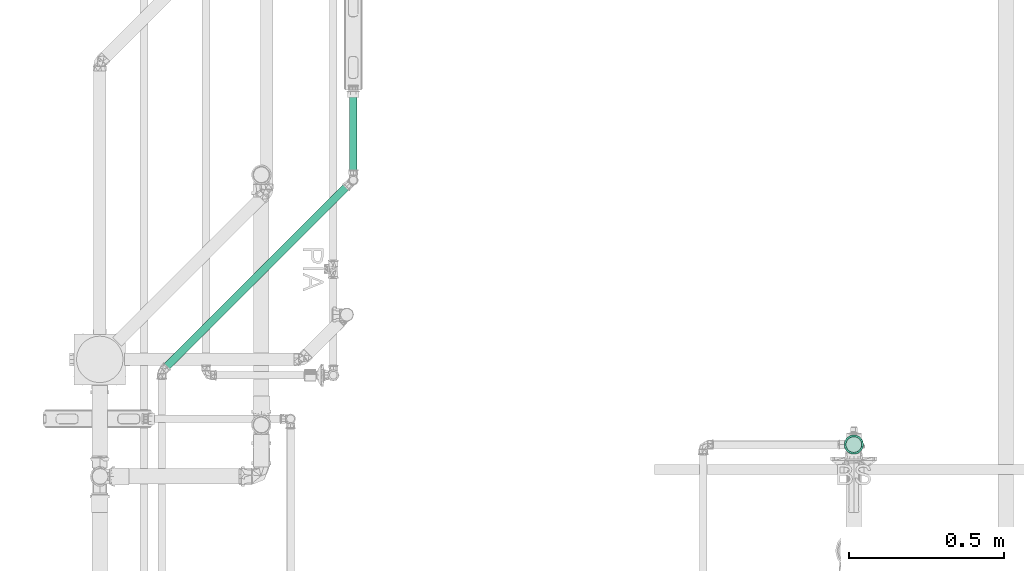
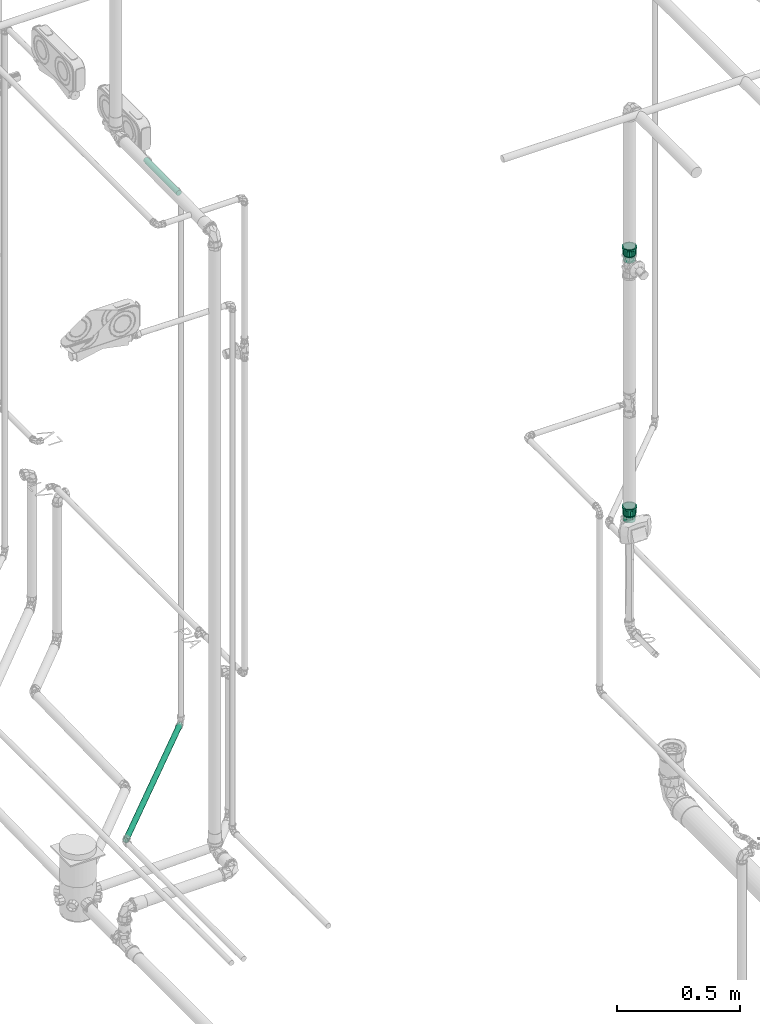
# One storey, part 56 of 589: 2 flow fittings, 2 flow segments.
"""IFC2X3 building model written with IfcOpenShell, lengths in millimetres."""

from ifc_helpers import new_model, entity, si_unit, converted_unit, derived_unit, direction, frame, frame_2d, origin, place, context, subcontext, project, spatial, circle, extrude, faceted_brep, source, transform, mapped, material, type_object, type_shapes, element, save


model = new_model("IFC2X3")

# Units and contexts
model_context = context("Model", 3, precision=0.01, world=origin(), true_north=direction((6.123031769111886e-17, 1.0)))
body_context = subcontext(model_context, "Body", "Model", "MODEL_VIEW")
ifc_project = project(units=[si_unit("LENGTHUNIT", "METRE", prefix="MILLI"), si_unit("AREAUNIT", "SQUARE_METRE"), si_unit("VOLUMEUNIT", "CUBIC_METRE"), converted_unit("PLANEANGLEUNIT", "DEGREE", entity("IfcRatioMeasure", 0.017453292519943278), si_unit("PLANEANGLEUNIT", "RADIAN"), dimensions=[0, 0, 0, 0, 0, 0, 0]), si_unit("MASSUNIT", "GRAM", prefix="KILO"), derived_unit("MASSDENSITYUNIT", [(si_unit("MASSUNIT", "GRAM", prefix="KILO"), 1), (si_unit("LENGTHUNIT", "METRE"), -3)]), derived_unit("IONCONCENTRATIONUNIT", [(si_unit("MASSUNIT", "GRAM", prefix="KILO"), 1), (si_unit("LENGTHUNIT", "METRE"), -3)]), derived_unit("MOMENTOFINERTIAUNIT", [(si_unit("LENGTHUNIT", "METRE"), 4)]), si_unit("TIMEUNIT", "SECOND"), si_unit("FREQUENCYUNIT", "HERTZ"), si_unit("THERMODYNAMICTEMPERATUREUNIT", "DEGREE_CELSIUS"), derived_unit("THERMALTRANSMITTANCEUNIT", [(si_unit("MASSUNIT", "GRAM", prefix="KILO"), 1), (si_unit("THERMODYNAMICTEMPERATUREUNIT", "KELVIN"), -1), (si_unit("TIMEUNIT", "SECOND"), -3)]), derived_unit("THERMALCONDUCTANCEUNIT", [(si_unit("MASSUNIT", "GRAM", prefix="KILO"), 1), (si_unit("THERMODYNAMICTEMPERATUREUNIT", "KELVIN"), -1), (si_unit("TIMEUNIT", "SECOND"), -3), (si_unit("LENGTHUNIT", "METRE"), 1)]), derived_unit("VOLUMETRICFLOWRATEUNIT", [(si_unit("LENGTHUNIT", "METRE"), 3), (si_unit("TIMEUNIT", "SECOND"), -1)]), derived_unit("MASSFLOWRATEUNIT", [(si_unit("MASSUNIT", "GRAM", prefix="KILO"), 1), (si_unit("TIMEUNIT", "SECOND"), -1)]), derived_unit("ROTATIONALFREQUENCYUNIT", [(si_unit("TIMEUNIT", "SECOND"), -1)]), si_unit("ELECTRICCURRENTUNIT", "AMPERE"), si_unit("ELECTRICVOLTAGEUNIT", "VOLT"), si_unit("POWERUNIT", "WATT"), si_unit("FORCEUNIT", "NEWTON", prefix="KILO"), si_unit("ILLUMINANCEUNIT", "LUX"), si_unit("LUMINOUSFLUXUNIT", "LUMEN"), si_unit("LUMINOUSINTENSITYUNIT", "CANDELA"), derived_unit("USERDEFINED", [(si_unit("MASSUNIT", "GRAM", prefix="KILO"), -1), (si_unit("LENGTHUNIT", "METRE"), -2), (si_unit("TIMEUNIT", "SECOND"), 3), (si_unit("LUMINOUSFLUXUNIT", "LUMEN"), 1)]), derived_unit("USERDEFINED", [(si_unit("MASSUNIT", "GRAM", prefix="KILO"), 1), (si_unit("TIMEUNIT", "SECOND"), -3), (si_unit("LENGTHUNIT", "METRE"), 3), (si_unit("ELECTRICCURRENTUNIT", "AMPERE"), -2)]), derived_unit("SOUNDPOWERUNIT", [(si_unit("MASSUNIT", "GRAM", prefix="KILO"), 1), (si_unit("TIMEUNIT", "SECOND"), -3), (si_unit("LENGTHUNIT", "METRE"), 2)]), derived_unit("SOUNDPRESSUREUNIT", [(si_unit("MASSUNIT", "GRAM", prefix="KILO"), 1), (si_unit("LENGTHUNIT", "METRE"), -1), (si_unit("TIMEUNIT", "SECOND"), -2)]), derived_unit("LINEARVELOCITYUNIT", [(si_unit("LENGTHUNIT", "METRE"), 1), (si_unit("TIMEUNIT", "SECOND"), -1)]), si_unit("PRESSUREUNIT", "PASCAL"), derived_unit("USERDEFINED", [(si_unit("MASSUNIT", "GRAM", prefix="KILO"), 1), (si_unit("LENGTHUNIT", "METRE"), -2), (si_unit("TIMEUNIT", "SECOND"), -2)]), derived_unit("LINEARFORCEUNIT", [(si_unit("MASSUNIT", "GRAM", prefix="KILO"), 1), (si_unit("TIMEUNIT", "SECOND"), -2)]), derived_unit("PLANARFORCEUNIT", [(si_unit("MASSUNIT", "GRAM", prefix="KILO"), 1), (si_unit("LENGTHUNIT", "METRE"), -1), (si_unit("TIMEUNIT", "SECOND"), -2)]), derived_unit("SPECIFICHEATCAPACITYUNIT", [(si_unit("THERMODYNAMICTEMPERATUREUNIT", "KELVIN"), -1), (si_unit("LENGTHUNIT", "METRE"), 2), (si_unit("TIMEUNIT", "SECOND"), -2)]), derived_unit("HEATINGVALUEUNIT", [(si_unit("LENGTHUNIT", "METRE"), 2), (si_unit("TIMEUNIT", "SECOND"), -2)]), derived_unit("VAPORPERMEABILITYUNIT", [(si_unit("LENGTHUNIT", "METRE"), -1), (si_unit("TIMEUNIT", "SECOND"), 1)]), derived_unit("DYNAMICVISCOSITYUNIT", [(si_unit("MASSUNIT", "GRAM", prefix="KILO"), 1), (si_unit("TIMEUNIT", "SECOND"), -1), (si_unit("LENGTHUNIT", "METRE"), -1)]), derived_unit("THERMALEXPANSIONCOEFFICIENTUNIT", [(si_unit("THERMODYNAMICTEMPERATUREUNIT", "KELVIN"), -1)]), derived_unit("MODULUSOFELASTICITYUNIT", [(si_unit("MASSUNIT", "GRAM", prefix="KILO"), 1), (si_unit("LENGTHUNIT", "METRE"), -1), (si_unit("TIMEUNIT", "SECOND"), -2)]), derived_unit("ISOTHERMALMOISTURECAPACITYUNIT", [(si_unit("LENGTHUNIT", "METRE"), 3), (si_unit("MASSUNIT", "GRAM", prefix="KILO"), -1)]), derived_unit("MOISTUREDIFFUSIVITYUNIT", [(si_unit("TIMEUNIT", "SECOND"), -1), (si_unit("LENGTHUNIT", "METRE"), 2)])], contexts=[model_context])

# Site, building, storey
site_placement = place(None, origin())
site = spatial("IfcSite", under=ifc_project, at=site_placement, Name="Default", CompositionType="ELEMENT")
building_placement = place(site_placement, origin())
building = spatial("IfcBuilding", under=site, at=building_placement, CompositionType="ELEMENT")
storey_placement = place(building_placement, frame((0.0, 0.0, 100.0)))
storey = spatial("IfcBuildingStorey", under=building, at=storey_placement, Name="TÉRREO", CompositionType="ELEMENT", Elevation=100.0)

# Flow segments
pipe_segment_type = type_object("IfcPipeSegmentType", Name="Tipos de tubos:PVC Marrom Soldável", PredefinedType="NOTDEFINED")
flow_segment_1_placement = place(storey_placement, origin())
element("IfcFlowSegment", 1, at=flow_segment_1_placement, inside=storey, type_object=pipe_segment_type, Name="Tipos de tubos:PVC Marrom Soldável", ObjectType="Tipos de tubos:PVC Marrom Soldável", context=body_context, shape_type="SweptSolid", body=[
    extrude(circle(Radius=12.5, at=frame_2d((7.65689665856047e-13, 7.428414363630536e-08), x_axis=(1.0, 0.0))), frame((-205.78807947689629, -7731.279694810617, -37.35698019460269), z_axis=(0.707106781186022, 0.707106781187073, 0.0), x_axis=(-0.707106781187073, 0.707106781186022, 0.0)), (0.0, 0.0, 1.0), 848.1311712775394),
])
flow_segment_2_placement = place(storey_placement, origin())
element("IfcFlowSegment", 2, at=flow_segment_2_placement, inside=storey, type_object=pipe_segment_type, Name="Tipos de tubos:PVC Marrom Soldável", ObjectType="Tipos de tubos:PVC Marrom Soldável", context=body_context, shape_type="SweptSolid", body=[
    extrude(circle(Radius=12.5, at=frame_2d((6.767919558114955e-14, 0.0), x_axis=(1.0, 0.0))), frame((405.66918499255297, -7103.373910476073, 2576.538742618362), z_axis=(0.0, 0.9999500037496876, 0.009999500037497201), x_axis=(-1.0, 0.0, 0.0)), (0.0, 0.0, 1.0), 266.0970462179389),
])

# Flow fittings
ifc_material = material(Name="PVC Marrom")
pipe_fitting_type = type_object("IfcPipeFittingType", Name="PVC Marrom Soldável_Adaptador Curto com Bolsa e Rosca Aninhado_Rodrigo MEP:Adaptador", PredefinedType="NOTDEFINED", material=ifc_material)
shared_shape = source(origin(), body_context, "Body", "Brep", [
    faceted_brep([(0.0, -15.475000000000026, -26.803486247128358), (0.0, -21.884954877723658, -21.88495487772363), (0.0, -12.499999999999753, -21.65063509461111), (0.0, -6.470476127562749, -24.14814565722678), (0.0, -8.010449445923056, -29.895404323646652), (0.0, -17.677669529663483, -17.6776695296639), (0.0, -26.803486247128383, -15.474999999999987), (0.0, -21.650635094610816, -12.500000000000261), (0.0, -24.148145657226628, -6.470476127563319), (0.0, -29.895404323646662, -8.01044944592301), (0.0, -25.0, 0.0), (0.0, -30.95, 0.0), (0.0, -24.14814565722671, 6.470476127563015), (0.0, -29.895404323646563, 8.010449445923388), (0.0, -21.65063509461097, 12.499999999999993), (0.0, -26.80348624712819, 15.475000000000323), (0.0, -17.6776695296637, 17.677669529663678), (0.0, -21.884954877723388, 21.884954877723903), (0.0, -12.500000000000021, 21.65063509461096), (0.0, -15.474999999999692, 26.803486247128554), (0.0, -6.4704761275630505, 24.1481456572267), (0.0, -8.010449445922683, 29.89540432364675), (0.0, 0.0, 25.0), (0.0, 0.0, 30.95), (0.0, 6.4704761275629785, 24.14814565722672), (0.0, 8.010449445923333, 29.895404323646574), (0.0, 12.49999999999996, 21.650635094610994), (0.0, 15.475000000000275, 26.803486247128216), (0.0, 17.677669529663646, 17.67766952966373), (0.0, 21.884954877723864, 21.884954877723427), (0.0, 21.65063509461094, 12.500000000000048), (0.0, 26.803486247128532, 15.474999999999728), (0.0, 29.89540432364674, 8.010449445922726), (0.0, 24.14814565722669, 6.4704761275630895), (0.0, 30.95, 0.0), (0.0, 25.0, 0.0), (0.0, 29.895404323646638, -8.010449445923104), (0.0, 24.148145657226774, -6.470476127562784), (0.0, 26.803486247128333, -15.475000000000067), (0.0, 21.6506350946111, -12.499999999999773), (0.0, 21.884954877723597, -21.884954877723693), (0.0, 17.677669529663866, -17.67766952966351), (0.0, 15.474999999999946, -26.803486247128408), (0.0, 12.500000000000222, -21.650635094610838), (0.0, 8.010449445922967, -29.895404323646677), (0.0, 6.470476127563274, -24.148145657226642), (0.0, 0.0, -30.95), (0.0, 0.0, -25.0), (7.0, 29.083191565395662, 10.586334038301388), (7.0, 29.880651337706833, 6.064083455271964), (7.0, 30.016595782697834, 5.29316701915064), (7.0, 19.590362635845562, 23.350189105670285), (7.0, 23.70796650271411, 19.895598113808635), (7.0, 26.395579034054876, 15.24096607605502), (7.0, 10.421885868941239, 28.6425895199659), (7.0, 5.3710129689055, 30.480398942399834), (7.0, 30.95, 0.0), (7.0, 15.472758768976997, 26.804780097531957), (7.0, -15.479482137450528, 26.80089798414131), (7.0, -10.42907040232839, 28.639974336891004), (7.0, -5.37865866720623, 30.479050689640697), (7.0, -23.712956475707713, 19.889650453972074), (7.0, -19.596219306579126, 23.345274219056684), (7.0, -30.95, 0.0), (7.0, -29.08584618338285, 10.57903832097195), (7.0, -26.39940132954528, 15.234344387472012), (7.0, -0.0038228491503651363, 30.47972481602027), (7.0, -29.08584618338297, -10.579038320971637), (7.0, -19.596219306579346, -23.3452742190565), (7.0, -23.71295647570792, -19.88965045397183), (7.0, -26.39940132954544, -15.234344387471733), (7.0, -10.429070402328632, -28.639974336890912), (7.0, -5.378658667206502, -30.47905068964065), (7.0, -15.47948213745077, -26.800897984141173), (7.0, 30.0165957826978, -5.2931670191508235), (7.0, 15.472758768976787, -26.804780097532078), (7.0, 10.421885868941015, -28.642589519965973), (7.0, 5.3710129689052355, -30.480398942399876), (7.0, 23.707966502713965, -19.895598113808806), (7.0, 19.590362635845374, -23.350189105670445), (7.0, 29.88065131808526, -6.064083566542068), (7.0, 29.083191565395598, -10.58633403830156), (7.0, 26.395579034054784, -15.240966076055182), (7.0, -0.003822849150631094, -30.479724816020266), (34.4499999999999, 26.875116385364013, 9.782030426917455), (9.400000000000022, 27.737468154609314, 4.8912625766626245), (9.400000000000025, 26.87493630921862, 9.782525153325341), (9.400000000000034, 14.297928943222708, 24.769522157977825), (34.4499999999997, 14.299296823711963, 24.768732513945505), (9.40000000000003, 18.102887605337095, 21.577234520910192), (34.4499999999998, 21.908523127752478, 18.384140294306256), (34.44999999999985, 24.391819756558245, 14.083085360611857), (9.400000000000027, 24.391391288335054, 14.083736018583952), (9.400000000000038, 9.63056335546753, 26.467788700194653), (9.400000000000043, 4.963197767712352, 28.16605524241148), (34.44999999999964, 4.965271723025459, 28.165689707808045), (9.400000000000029, 21.907846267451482, 18.384946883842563), (34.44999999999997, 27.796398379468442, 4.557325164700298), (9.40000000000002, 28.600000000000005, 0.0), (34.44999999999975, 18.103909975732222, 21.57643640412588), (34.44999999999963, -0.0011994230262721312, 28.165478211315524), (9.400000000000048, -0.0035325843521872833, 28.165432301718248), (34.44999999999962, -4.967670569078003, 28.165266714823), (34.44999999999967, 9.632284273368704, 26.46721111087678), (9.400000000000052, -4.970262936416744, 28.164809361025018), (9.40000000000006, -14.304141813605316, 24.765934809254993), (34.449999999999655, -14.301406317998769, 24.76751455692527), (9.400000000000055, -9.63720237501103, 26.465372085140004), (34.449999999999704, -18.105747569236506, 21.574894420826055), (34.44999999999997, 27.73755819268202, 4.891015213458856), (9.400000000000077, -26.87738936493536, 9.77578339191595), (34.450000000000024, -28.600000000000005, 0.0), (34.449999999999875, -26.875949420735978, 9.779741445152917), (9.400000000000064, -18.108299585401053, 21.57269281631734), (9.40000000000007, -21.91245735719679, 18.379450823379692), (34.449999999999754, -21.910088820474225, 18.38227428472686), (34.44999999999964, -9.634538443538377, 26.466390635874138), (9.400000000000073, -24.394923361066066, 14.077617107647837), (34.450000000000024, 28.600000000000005, 0.0), (9.40000000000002, -28.600000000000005, 0.0), (34.44999999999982, -24.3930191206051, 14.081007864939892), (34.45000000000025, -26.87594942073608, -9.77974144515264), (9.40000000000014, -26.87738936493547, -9.77578339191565), (34.45000000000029, 18.103909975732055, -21.576436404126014), (34.45000000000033, 14.299296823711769, -24.76873251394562), (9.400000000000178, 18.10288760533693, -21.577234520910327), (34.450000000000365, -21.910088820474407, -18.38227428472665), (9.400000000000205, -21.912457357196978, -18.37945082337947), (9.400000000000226, -18.108299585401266, -21.57269281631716), (34.45000000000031, -24.393019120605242, -14.081007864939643), (9.400000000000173, -24.394923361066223, -14.077617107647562), (9.40000000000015, 21.907846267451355, -18.384946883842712), (9.40000000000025, -0.0035325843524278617, -28.165432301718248), (9.400000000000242, 4.963197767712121, -28.166055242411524), (34.45000000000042, -0.0011994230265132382, -28.165478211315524), (34.45000000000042, -14.301406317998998, -24.76751455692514), (9.400000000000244, -14.304141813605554, -24.765934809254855), (9.40000000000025, -9.637202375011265, -26.46537208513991), (34.45000000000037, 9.632284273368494, -26.467211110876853), (34.45000000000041, 4.965271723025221, -28.165689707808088), (9.400000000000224, 9.63056335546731, -26.467788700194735), (9.400000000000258, -4.970262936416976, -28.164809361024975), (34.45000000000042, -9.634538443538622, -26.46639063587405), (34.45000000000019, 24.391819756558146, -14.083085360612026), (9.40000000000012, 24.391391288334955, -14.083736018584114), (9.400000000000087, 26.874936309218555, -9.782525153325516), (34.450000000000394, -18.1057475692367, -21.574894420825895), (34.450000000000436, -4.967670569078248, -28.16526671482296), (34.45000000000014, 26.875116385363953, -9.782030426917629), (34.450000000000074, 27.796398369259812, -4.557325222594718), (9.400000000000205, 14.297928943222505, -24.769522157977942), (9.400000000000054, 27.737468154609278, -4.8912625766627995), (34.450000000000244, 21.908523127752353, -18.38414029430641), (34.45000000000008, 27.737558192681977, -4.891015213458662), (69.0, 0.0, -25.0), (69.0, 6.4704761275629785, -24.14814565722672), (69.0, 12.49999999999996, -21.650635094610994), (69.0, 17.677669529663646, -17.67766952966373), (69.0, 21.650635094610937, -12.500000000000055), (69.0, 24.14814565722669, -6.4704761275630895), (69.0, 25.0, 0.0), (69.0, 24.148145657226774, 6.470476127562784), (69.0, 21.650635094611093, 12.499999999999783), (69.0, 17.67766952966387, 17.677669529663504), (69.0, 12.500000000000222, 21.650635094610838), (69.0, 6.470476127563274, 24.148145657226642), (69.0, 0.0, 25.0), (69.0, -6.470476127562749, 24.14814565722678), (69.0, -12.499999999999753, 21.65063509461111), (69.0, -17.677669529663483, 17.6776695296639), (69.0, -21.650635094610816, 12.500000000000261), (69.0, -24.148145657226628, 6.470476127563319), (69.0, -25.0, 0.0), (69.0, -24.14814565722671, -6.470476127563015), (69.0, -21.650635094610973, -12.499999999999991), (69.0, -17.6776695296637, -17.677669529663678), (69.0, -12.500000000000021, -21.65063509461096), (69.0, -6.4704761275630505, -24.1481456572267), (40.499999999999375, 8.41832461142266, 23.136178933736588), (40.49999999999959, 19.1502152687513, 16.070757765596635), (40.49999999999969, 21.321146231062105, 12.310958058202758), (40.49999999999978, 23.492077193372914, 8.551158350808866), (40.49999999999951, 15.824202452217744, 18.861218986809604), (40.49999999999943, 12.498189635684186, 21.651680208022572), (40.49999999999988, 24.246038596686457, 4.275579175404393), (40.49999999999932, 4.3384595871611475, 24.620677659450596), (40.499999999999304, -0.003087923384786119, 24.620133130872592), (40.499999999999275, -4.344635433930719, 24.61958860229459), (40.49999999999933, -12.503620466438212, 21.648544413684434), (40.49999999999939, -15.828933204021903, 18.85724896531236), (40.49999999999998, 25.0, 0.0), (40.49999999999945, -19.154245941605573, 16.065953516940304), (40.49999999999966, -23.494221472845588, 8.545265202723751), (40.499999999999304, -8.424127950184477, 23.13406650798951), (40.49999999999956, -21.324233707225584, 12.305609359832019), (40.49999999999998, -25.0, 0.0), (40.500000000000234, -19.15424594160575, -16.065953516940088), (40.50000000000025, 12.498189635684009, -21.65168020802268), (40.500000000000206, 15.824202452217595, -18.861218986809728), (40.500000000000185, -21.32423370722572, -12.305609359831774), (40.50000000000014, -23.494221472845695, -8.545265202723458), (40.50000000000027, -15.82893320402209, -18.8572489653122), (40.5000000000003, -12.503620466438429, -21.64854441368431), (40.50000000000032, -8.42412795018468, -23.13406650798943), (40.50000000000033, -4.344635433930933, -24.619588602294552), (40.50000000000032, -0.00308792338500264, -24.620133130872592), (40.5000000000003, 4.3384595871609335, -24.62067765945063), (40.50000000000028, 8.41832461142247, -23.136178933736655), (40.50000000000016, 19.150215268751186, -16.070757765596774), (40.50000000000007, 23.49207719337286, -8.551158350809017), (40.500000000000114, 21.321146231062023, -12.31095805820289), (40.50000000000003, 24.246038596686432, -4.275579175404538), (9.40000000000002, 24.14814565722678, -6.470476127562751), (34.450000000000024, 24.14814565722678, -6.470476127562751), (34.450000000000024, 25.0, 0.0), (9.40000000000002, 25.0, 0.0), (7.0, 25.0, 0.0), (7.0, 24.14814565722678, -6.470476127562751), (9.40000000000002, 21.650635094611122, -12.499999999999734), (34.450000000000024, 21.650635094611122, -12.499999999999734), (7.0, 21.650635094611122, -12.499999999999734), (34.450000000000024, 12.500000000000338, -21.65063509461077), (34.450000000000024, 17.677669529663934, -17.677669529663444), (9.40000000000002, 17.677669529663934, -17.677669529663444), (7.0, 17.677669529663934, -17.677669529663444), (7.0, 12.500000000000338, -21.65063509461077), (9.40000000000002, 12.500000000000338, -21.65063509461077), (34.450000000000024, 6.470476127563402, -24.148145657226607), (7.0, 6.470476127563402, -24.148145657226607), (9.40000000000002, 6.470476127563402, -24.148145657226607), (34.450000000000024, 0.0, -25.0), (7.0, 0.0, -25.0), (9.40000000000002, 0.0, -25.0), (9.40000000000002, -6.470476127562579, -24.148145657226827), (34.450000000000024, -6.470476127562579, -24.148145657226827), (7.0, -6.470476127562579, -24.148145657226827), (9.40000000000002, -12.49999999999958, -21.65063509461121), (34.450000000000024, -12.49999999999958, -21.65063509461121), (7.0, -12.49999999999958, -21.65063509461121), (9.40000000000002, -24.148145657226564, -6.470476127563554), (7.0, -24.14814565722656, -6.470476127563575), (7.0, -25.0, 0.0), (9.40000000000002, -25.0, 0.0), (34.450000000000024, -25.0, 0.0), (34.450000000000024, -24.148145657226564, -6.470476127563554), (9.40000000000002, -17.677669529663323, -17.677669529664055), (34.450000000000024, -17.677669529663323, -17.677669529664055), (7.0, -17.677669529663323, -17.677669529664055), (9.40000000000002, -21.650635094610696, -12.500000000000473), (34.450000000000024, -21.650635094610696, -12.500000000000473), (7.0, -21.650635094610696, -12.500000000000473), (9.40000000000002, -24.148145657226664, 6.470476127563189), (34.450000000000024, -24.148145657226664, 6.470476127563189), (7.0, -24.148145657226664, 6.470476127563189), (9.40000000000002, -21.65063509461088, 12.50000000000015), (34.450000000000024, -21.65063509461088, 12.50000000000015), (7.0, -21.65063509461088, 12.50000000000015), (34.450000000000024, -12.49999999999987, 21.650635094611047), (34.450000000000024, -17.677669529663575, 17.677669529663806), (9.40000000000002, -17.677669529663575, 17.677669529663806), (7.0, -17.677669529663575, 17.677669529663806), (7.0, -12.49999999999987, 21.650635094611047), (9.40000000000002, -12.49999999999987, 21.650635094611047), (34.450000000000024, -6.470476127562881, 24.14814565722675), (7.0, -6.470476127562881, 24.14814565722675), (9.40000000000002, -6.470476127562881, 24.14814565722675), (34.450000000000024, 0.0, 25.0), (7.0, 0.0, 25.0), (9.40000000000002, 0.0, 25.0), (34.450000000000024, 12.50000000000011, 21.650635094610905), (9.40000000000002, 12.50000000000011, 21.650635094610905), (7.0, 12.50000000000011, 21.650635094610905), (7.0, 17.677669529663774, 17.677669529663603), (9.40000000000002, 17.677669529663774, 17.677669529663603), (34.450000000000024, 17.677669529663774, 17.677669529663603), (34.450000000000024, 21.650635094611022, 12.499999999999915), (9.40000000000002, 21.650635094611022, 12.499999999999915), (7.0, 21.650635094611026, 12.499999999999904), (7.0, 24.14814565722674, 6.470476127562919), (9.40000000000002, 24.14814565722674, 6.470476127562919), (34.450000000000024, 24.14814565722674, 6.470476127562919), (34.450000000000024, 6.470476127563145, 24.148145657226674), (9.40000000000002, 6.470476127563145, 24.148145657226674), (7.0, 6.470476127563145, 24.148145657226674)], [[[0, 1, 2]], [[0, 2, 3]], [[3, 4, 0]], [[2, 1, 5]], [[6, 5, 1]], [[7, 5, 6]], [[8, 7, 6]], [[8, 6, 9]], [[8, 9, 10]], [[10, 9, 11]], [[12, 10, 11]], [[12, 11, 13]], [[14, 12, 13]], [[14, 13, 15]], [[16, 14, 15]], [[15, 17, 16]], [[17, 18, 16]], [[18, 17, 19]], [[18, 19, 20]], [[21, 20, 19]], [[20, 21, 22]], [[22, 21, 23]], [[23, 24, 22]], [[24, 23, 25]], [[24, 25, 26]], [[27, 26, 25]], [[27, 28, 26]], [[27, 29, 28]], [[30, 28, 29]], [[31, 30, 29]], [[32, 30, 31]], [[33, 30, 32]], [[33, 32, 34]], [[34, 35, 33]], [[36, 35, 34]], [[36, 37, 35]], [[37, 36, 38]], [[39, 37, 38]], [[39, 38, 40]], [[39, 40, 41]], [[40, 42, 41]], [[41, 42, 43]], [[43, 42, 44]], [[44, 45, 43]], [[46, 45, 44]], [[4, 47, 46]], [[46, 47, 45]], [[4, 3, 47]], [[32, 48, 49, 50]], [[51, 52, 29]], [[53, 48, 31, 52]], [[54, 25, 55]], [[48, 32, 31]], [[34, 50, 56]], [[27, 57, 51]], [[29, 27, 51]], [[29, 52, 31]], [[19, 58, 59]], [[21, 19, 59]], [[54, 57, 27]], [[25, 54, 27]], [[55, 25, 23]], [[32, 50, 34]], [[59, 60, 21]], [[61, 62, 17]], [[63, 64, 13]], [[65, 61, 15, 64]], [[11, 63, 13]], [[17, 62, 19]], [[66, 55, 23, 60]], [[21, 60, 23]], [[61, 17, 15]], [[19, 62, 58]], [[13, 64, 15]], [[67, 63, 9]], [[68, 69, 1]], [[70, 67, 6, 69]], [[71, 4, 72]], [[67, 9, 6]], [[63, 11, 9]], [[4, 71, 0]], [[0, 73, 68]], [[1, 69, 6]], [[36, 34, 74]], [[42, 75, 76]], [[71, 73, 0]], [[44, 42, 76]], [[72, 4, 46]], [[1, 0, 68]], [[76, 77, 44]], [[78, 79, 40]], [[36, 74, 80, 81]], [[82, 78, 38, 81]], [[36, 81, 38]], [[40, 79, 42]], [[83, 72, 46, 77]], [[44, 77, 46]], [[78, 40, 38]], [[42, 79, 75]], [[34, 56, 74]], [[84, 85, 86]], [[87, 88, 89]], [[90, 91, 92]], [[93, 94, 95]], [[92, 96, 90]], [[97, 98, 85]], [[96, 89, 99]], [[84, 86, 91]], [[100, 101, 102]], [[103, 93, 95]], [[93, 103, 87]], [[92, 91, 86]], [[101, 104, 102]], [[99, 89, 88]], [[105, 106, 107]], [[106, 105, 108]], [[85, 84, 109, 97]], [[95, 94, 100]], [[110, 111, 112]], [[113, 114, 115]], [[102, 104, 116]], [[112, 117, 110]], [[108, 113, 115]], [[107, 116, 104]], [[97, 118, 98]], [[108, 105, 113]], [[111, 110, 119]], [[90, 96, 99]], [[120, 114, 117]], [[120, 117, 112]], [[88, 87, 103]], [[94, 101, 100]], [[115, 114, 120]], [[116, 107, 106]], [[121, 111, 122]], [[123, 124, 125]], [[126, 127, 128]], [[129, 121, 130]], [[125, 131, 123]], [[121, 122, 130]], [[132, 133, 134]], [[135, 136, 137]], [[138, 139, 140]], [[122, 111, 119]], [[130, 127, 129]], [[137, 141, 142]], [[143, 144, 145]], [[146, 126, 128]], [[134, 147, 132]], [[142, 135, 137]], [[133, 139, 134]], [[139, 133, 140]], [[146, 136, 135]], [[148, 143, 145]], [[142, 141, 147]], [[98, 118, 149]], [[124, 150, 125]], [[138, 150, 124]], [[145, 151, 148]], [[128, 136, 146]], [[131, 144, 152]], [[151, 149, 153, 148]], [[143, 152, 144]], [[123, 131, 152]], [[132, 147, 141]], [[151, 98, 149]], [[129, 127, 126]], [[140, 150, 138]], [[154, 155, 156, 157, 158, 159, 160, 161, 162, 163, 164, 165, 166, 167, 168, 169, 170, 171, 172, 173, 174, 175, 176, 177]], [[165, 164, 178]], [[179, 163, 162]], [[180, 179, 162, 181]], [[164, 182, 183]], [[184, 181, 161]], [[178, 185, 165]], [[182, 163, 179]], [[186, 187, 166, 185]], [[165, 185, 166]], [[163, 182, 164]], [[168, 188, 189]], [[161, 160, 184]], [[160, 190, 184]], [[169, 191, 170]], [[161, 181, 162]], [[192, 171, 170]], [[167, 193, 168]], [[194, 192, 170, 191]], [[172, 171, 195]], [[187, 193, 167]], [[167, 166, 187]], [[168, 193, 188]], [[169, 168, 189]], [[189, 191, 169]], [[192, 195, 171]], [[164, 183, 178]], [[173, 172, 195]], [[196, 175, 174]], [[156, 197, 198]], [[199, 196, 174, 200]], [[176, 201, 202]], [[173, 195, 200]], [[203, 204, 177]], [[201, 175, 196]], [[205, 206, 154, 204]], [[157, 156, 198]], [[175, 201, 176]], [[176, 202, 203]], [[207, 197, 156]], [[173, 200, 174]], [[177, 176, 203]], [[157, 208, 158]], [[209, 159, 158]], [[210, 209, 158, 208]], [[211, 190, 160]], [[155, 154, 206]], [[155, 206, 207]], [[155, 207, 156]], [[198, 208, 157]], [[159, 209, 211]], [[159, 211, 160]], [[177, 204, 154]], [[212, 213, 214, 215, 216, 35, 37, 217]], [[218, 219, 213, 212, 217, 37, 39, 220]], [[221, 222, 223, 224, 41, 43, 225, 226]], [[218, 220, 39, 41, 224, 223, 222, 219]], [[227, 221, 226, 225, 43, 45, 228, 229]], [[230, 227, 229, 228, 45, 47, 231, 232]], [[233, 234, 230, 232, 231, 47, 3, 235]], [[236, 237, 234, 233, 235, 3, 2, 238]], [[239, 240, 8, 10, 241, 242, 243, 244]], [[245, 246, 237, 236, 238, 2, 5, 247]], [[248, 249, 246, 245, 247, 5, 7, 250]], [[248, 250, 7, 8, 240, 239, 244, 249]], [[251, 252, 243, 242, 241, 10, 12, 253]], [[254, 255, 252, 251, 253, 12, 14, 256]], [[257, 258, 259, 260, 16, 18, 261, 262]], [[254, 256, 14, 16, 260, 259, 258, 255]], [[263, 257, 262, 261, 18, 20, 264, 265]], [[266, 263, 265, 264, 20, 22, 267, 268]], [[269, 270, 271, 26, 28, 272, 273, 274]], [[275, 276, 277, 30, 33, 278, 279, 280]], [[273, 272, 28, 30, 277, 276, 275, 274]], [[280, 279, 278, 33, 35, 216, 215, 214]], [[281, 282, 283, 24, 26, 271, 270, 269]], [[282, 281, 266, 268, 267, 22, 24, 283]], [[122, 119, 63, 67]], [[151, 145, 81, 80, 74, 56, 98]], [[71, 72, 141, 137, 136, 73]], [[83, 77, 133, 132, 141, 72]], [[136, 128, 127, 69, 68, 73]], [[130, 122, 67, 70, 69, 127]], [[76, 75, 150, 140, 133, 77]], [[82, 81, 145, 144, 131, 78]], [[131, 125, 150, 75, 79, 78]], [[85, 98, 56, 50, 49, 48, 86]], [[92, 86, 48, 53, 52, 96]], [[89, 96, 52, 51, 57, 87]], [[57, 54, 55, 94, 93, 87]], [[66, 60, 104, 101, 94, 55]], [[58, 105, 107, 104, 60, 59]], [[63, 119, 110, 64]], [[61, 65, 64, 110, 117, 114]], [[58, 62, 61, 114, 113, 105]], [[221, 227, 230, 234, 237, 246, 249, 244, 243, 252, 255, 258, 257, 263, 266, 281, 269, 274, 275, 280, 214, 213, 219, 222]], [[190, 118, 97, 109]], [[109, 84, 184]], [[184, 84, 181]], [[178, 95, 185]], [[183, 88, 103]], [[179, 90, 99]], [[182, 88, 183]], [[181, 84, 91]], [[178, 183, 103]], [[103, 95, 178]], [[186, 185, 100]], [[91, 90, 180]], [[100, 102, 186]], [[180, 181, 91]], [[99, 88, 182]], [[182, 179, 99]], [[102, 187, 186]], [[189, 115, 191]], [[187, 102, 116]], [[180, 90, 179]], [[100, 185, 95]], [[193, 106, 188]], [[111, 195, 192]], [[191, 115, 120]], [[194, 112, 192]], [[188, 106, 108]], [[194, 191, 120]], [[120, 112, 194]], [[184, 190, 109]], [[108, 115, 189]], [[112, 111, 192]], [[189, 188, 108]], [[116, 106, 193]], [[193, 187, 116]], [[111, 200, 195]], [[203, 142, 204]], [[201, 146, 202]], [[199, 129, 196]], [[142, 147, 204]], [[146, 135, 202]], [[205, 134, 206]], [[129, 126, 196]], [[196, 126, 201]], [[121, 200, 111]], [[121, 129, 199]], [[201, 126, 146]], [[206, 139, 207]], [[204, 147, 205]], [[135, 142, 203]], [[200, 121, 199]], [[134, 139, 206]], [[202, 135, 203]], [[138, 124, 197]], [[207, 138, 197]], [[211, 153, 190]], [[210, 143, 209]], [[190, 153, 149, 118]], [[143, 148, 209]], [[198, 123, 208]], [[123, 152, 208]], [[208, 152, 210]], [[138, 207, 139]], [[198, 124, 123]], [[152, 143, 210]], [[148, 153, 211]], [[197, 124, 198]], [[147, 134, 205]], [[209, 148, 211]]]),
])
type_shapes(pipe_fitting_type, [shared_shape])
for number, where, z_axis, x_axis, name in (
    (3, (2016.6423921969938, -7970.828664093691, 988.0809161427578), (-1.0, 0.0, 0.0), (0.0, 0.0, -1.0), "PVC Marrom Soldável_Adaptador Curto com Bolsa e Rosca Aninhado_Rodrigo MEP:Adaptador"),
    (4, (2016.6423921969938, -7970.828664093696, 2275.0), (0.0, -1.0, 0.0), (0.0, 0.0, -1.0), "PVC Marrom Soldável_Adaptador Curto com Bolsa e Rosca Aninhado_Rodrigo MEP:Adaptador"),
):
    element("IfcFlowFitting", number, at=place(storey_placement, frame(where, z_axis=z_axis, x_axis=x_axis)), inside=storey, type_object=pipe_fitting_type, material=ifc_material, Name=name, ObjectType="PVC Marrom Soldável_Adaptador Curto com Bolsa e Rosca Aninhado_Rodrigo MEP:Adaptador", context=body_context, shape_type="MappedRepresentation", body=[
        mapped(shared_shape, transform((0.0, 0.0, 0.0), scale=1.0)),
    ])

save(model, "model.ifc")
